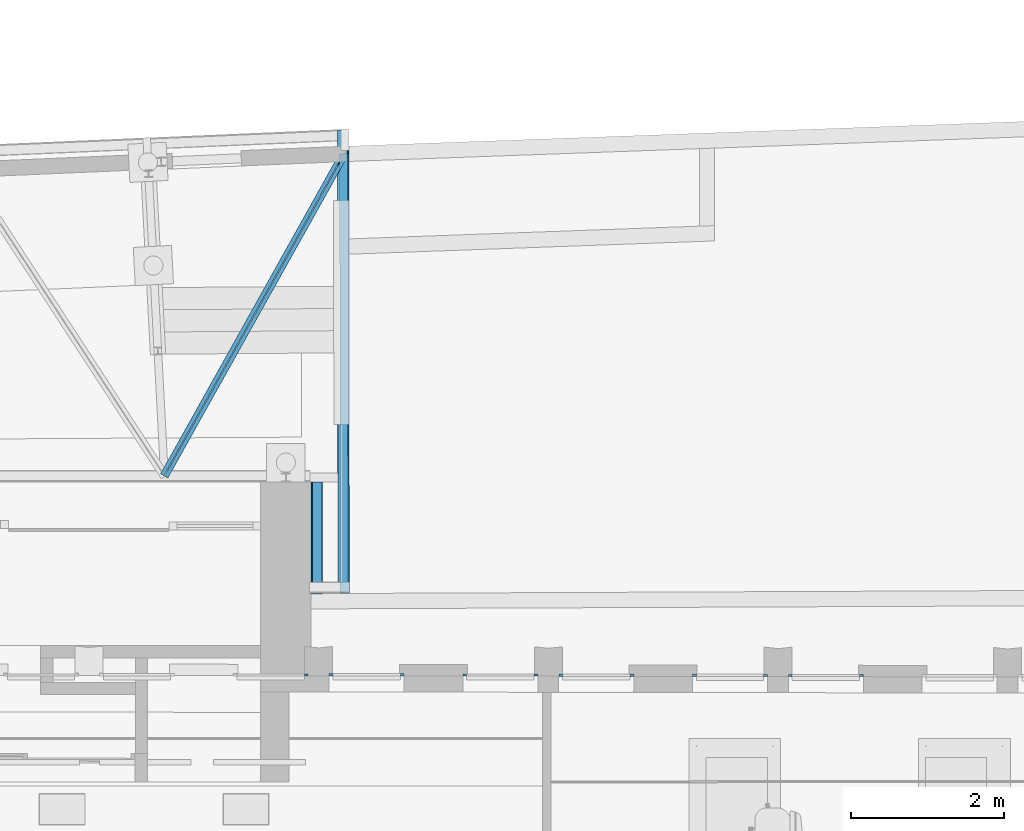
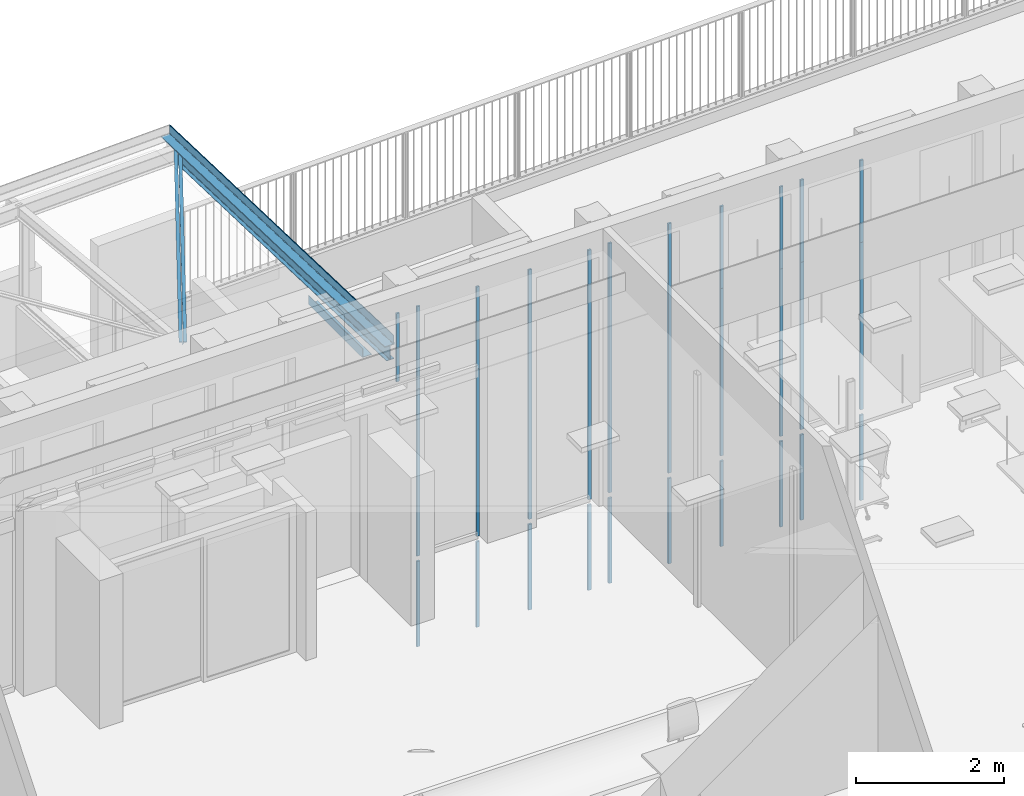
# One storey, part 11 of 128: 27 members, 4 beams, 11 elements without a shape of their own.
"""IFC2X3 building model written with IfcOpenShell, lengths in metres."""

from ifc_helpers import new_model, entity, si_unit, converted_unit, derived_unit, direction, frame, frame_2d, origin, origin_2d_with_axis, place, context, subcontext, project, spatial, polyline, circle_curve, parameter, trimmed, segment, composite_curve, rectangle, i_section, outline, extrude, source, transform, mapped, material, type_object, type_shapes, element, aggregate, save


model = new_model("IFC2X3")

# Units and contexts
model_context = context("Model", 3, precision=1e-05, world=origin(), true_north=direction((6.123031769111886e-17, 1.0)))
body_context = subcontext(model_context, "Body", "Model", "MODEL_VIEW")
ifc_project = project(units=[si_unit("LENGTHUNIT", "METRE"), si_unit("AREAUNIT", "SQUARE_METRE"), converted_unit("PLANEANGLEUNIT", "DEGREE", entity("IfcPlaneAngleMeasure", 0.017453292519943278), si_unit("PLANEANGLEUNIT", "RADIAN"), dimensions=[0, 0, 0, 0, 0, 0, 0]), derived_unit("THERMALTRANSMITTANCEUNIT", [(si_unit("MASSUNIT", "GRAM", prefix="KILO"), 1), (si_unit("THERMODYNAMICTEMPERATUREUNIT", "KELVIN"), -1), (si_unit("TIMEUNIT", "SECOND"), -3)])], contexts=[model_context])

# Site, building, storey
site_placement = place(None, origin())
site = spatial("IfcSite", under=ifc_project, at=site_placement, Name="Default", CompositionType="ELEMENT")
building_placement = place(site_placement, origin())
building = spatial("IfcBuilding", under=site, at=building_placement, CompositionType="ELEMENT")
storey_placement = place(building_placement, origin())
storey = spatial("IfcBuildingStorey", under=building, at=storey_placement, Name="00_RDC CAF", CompositionType="ELEMENT", Elevation=2.4982504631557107e-13)

# Curtain wall, member
curtain_wall_type_1 = type_object("IfcCurtainWallType", Name="Mur-rideau:FRi.Ext.30mm RDC", PredefinedType="NOTDEFINED")
curtain_wall_1_placement = place(storey_placement, origin())
curtain_wall_1 = element("IfcCurtainWall", 1, at=curtain_wall_1_placement, inside=storey, type_object=curtain_wall_type_1, Name="Mur-rideau:FRi.Ext.30mm RDC", ObjectType="Mur-rideau:FRi.Ext.30mm RDC")
ifc_material_1 = material(Name="ARC - M.Ex - Blanc")
member_type_1 = type_object("IfcMemberType", Name="Meneau rectangulaire:F.Ri.M_Ext_Rectangulaire_50x30mm", PredefinedType="MULLION", material=ifc_material_1)
shared_shape_1 = source(origin(), body_context, "Body", "SweptSolid", [
    extrude(rectangle(XDim=0.05, YDim=0.03, at=origin_2d_with_axis()), frame((-0.025, 0.0, -2.7689999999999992), z_axis=(0.0, 0.0, 1.0), x_axis=(-1.0, 0.0, 0.0)), (0.0, 0.0, 1.0), 2.7689999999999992),
])
type_shapes(member_type_1, [shared_shape_1])
member_1_placement = place(curtain_wall_1_placement, frame((31.865992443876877, 144.1440583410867, 0.0), z_axis=(0.0, 0.0, -1.0), x_axis=(1.0, 0.0, 0.0)))
member_1 = element("IfcMember", 2, at=member_1_placement, type_object=member_type_1, material=ifc_material_1, Name="Meneau rectangulaire:F.Ri.M_Ext_Rectangulaire_50x30mm", ObjectType="Meneau rectangulaire:F.Ri.M_Ext_Rectangulaire_50x30mm", context=body_context, shape_type="MappedRepresentation", body=[
    mapped(shared_shape_1, transform((0.0, 0.0, 0.0), scale=1.0)),
])

curtain_wall_2_placement = place(storey_placement, origin())
curtain_wall_2 = element("IfcCurtainWall", 3, at=curtain_wall_2_placement, inside=storey, type_object=curtain_wall_type_1, Name="Mur-rideau:FRi.Ext.30mm RDC", ObjectType="Mur-rideau:FRi.Ext.30mm RDC")
member_2_placement = place(curtain_wall_2_placement, frame((36.61235776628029, 144.13659375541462, 0.0), z_axis=(0.0, 0.0, -1.0), x_axis=(1.0, 0.0, 0.0)))
member_2 = element("IfcMember", 4, at=member_2_placement, type_object=member_type_1, material=ifc_material_1, Name="Meneau rectangulaire:F.Ri.M_Ext_Rectangulaire_50x30mm", ObjectType="Meneau rectangulaire:F.Ri.M_Ext_Rectangulaire_50x30mm", context=body_context, shape_type="MappedRepresentation", body=[
    mapped(shared_shape_1, transform((0.0, 0.0, 0.0), scale=1.0)),
])

curtain_wall_3_placement = place(storey_placement, origin())
curtain_wall_3 = element("IfcCurtainWall", 5, at=curtain_wall_3_placement, inside=storey, type_object=curtain_wall_type_1, Name="Mur-rideau:FRi.Ext.30mm RDC", ObjectType="Mur-rideau:FRi.Ext.30mm RDC")
member_3_placement = place(curtain_wall_3_placement, frame((37.865979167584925, 144.1346221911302, 0.0), z_axis=(0.0, 0.0, -1.0), x_axis=(1.0, 0.0, 0.0)))
member_3 = element("IfcMember", 6, at=member_3_placement, type_object=member_type_1, material=ifc_material_1, Name="Meneau rectangulaire:F.Ri.M_Ext_Rectangulaire_50x30mm", ObjectType="Meneau rectangulaire:F.Ri.M_Ext_Rectangulaire_50x30mm", context=body_context, shape_type="MappedRepresentation", body=[
    mapped(shared_shape_1, transform((0.0, 0.0, 0.0), scale=1.0)),
])

# Member
member_type_2 = type_object("IfcMemberType", Name="Meneau rectangulaire:F.Ri.M_Ext_Rectangulaire_50x30mm", PredefinedType="MULLION", material=ifc_material_1)
shared_shape_2 = source(origin(), body_context, "Body", "SweptSolid", [
    extrude(rectangle(XDim=0.05, YDim=0.03, at=origin_2d_with_axis()), frame((-0.025, 0.0, -1.3589999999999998), z_axis=(0.0, 0.0, 1.0), x_axis=(-1.0, 0.0, 0.0)), (0.0, 0.0, 1.0), 1.3589999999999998),
])
type_shapes(member_type_2, [shared_shape_2])
member_4_placement = place(curtain_wall_1_placement, frame((31.865992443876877, 144.1440583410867, 2.7689999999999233), z_axis=(0.0, 0.0, -1.0), x_axis=(1.0, 0.0, 0.0)))
member_4 = element("IfcMember", 7, at=member_4_placement, type_object=member_type_2, material=ifc_material_1, Name="Meneau rectangulaire:F.Ri.M_Ext_Rectangulaire_50x30mm", ObjectType="Meneau rectangulaire:F.Ri.M_Ext_Rectangulaire_50x30mm", context=body_context, shape_type="MappedRepresentation", body=[
    mapped(shared_shape_2, transform((0.0, 0.0, 0.0), scale=1.0)),
])

member_5_placement = place(curtain_wall_2_placement, frame((36.61235776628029, 144.13659375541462, 2.7689999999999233), z_axis=(0.0, 0.0, -1.0), x_axis=(1.0, 0.0, 0.0)))
member_5 = element("IfcMember", 8, at=member_5_placement, type_object=member_type_2, material=ifc_material_1, Name="Meneau rectangulaire:F.Ri.M_Ext_Rectangulaire_50x30mm", ObjectType="Meneau rectangulaire:F.Ri.M_Ext_Rectangulaire_50x30mm", context=body_context, shape_type="MappedRepresentation", body=[
    mapped(shared_shape_2, transform((0.0, 0.0, 0.0), scale=1.0)),
])

member_6_placement = place(curtain_wall_3_placement, frame((37.865979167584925, 144.1346221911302, 2.7689999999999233), z_axis=(0.0, 0.0, -1.0), x_axis=(1.0, 0.0, 0.0)))
member_6 = element("IfcMember", 9, at=member_6_placement, type_object=member_type_2, material=ifc_material_1, Name="Meneau rectangulaire:F.Ri.M_Ext_Rectangulaire_50x30mm", ObjectType="Meneau rectangulaire:F.Ri.M_Ext_Rectangulaire_50x30mm", context=body_context, shape_type="MappedRepresentation", body=[
    mapped(shared_shape_2, transform((0.0, 0.0, 0.0), scale=1.0)),
])

member_type_3 = type_object("IfcMemberType", Name="Meneau rectangulaire:F.Ri.M_Ext_Rectangulaire_50x30mm", PredefinedType="MULLION", material=ifc_material_1)
shared_shape_3 = source(origin(), body_context, "Body", "SweptSolid", [
    extrude(rectangle(XDim=0.05, YDim=0.03, at=origin_2d_with_axis()), frame((-0.025, 0.0, -1.3589999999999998), z_axis=(0.0, 0.0, 1.0), x_axis=(-1.0, 0.0, 0.0)), (0.0, 0.0, 1.0), 1.3589999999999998),
])
type_shapes(member_type_3, [shared_shape_3])
member_7_placement = place(curtain_wall_1_placement, frame((30.885993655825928, 144.1455995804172, 4.127999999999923), z_axis=(0.0, 0.0, 1.0), x_axis=(-1.0, 0.0, 0.0)))
member_7 = element("IfcMember", 10, at=member_7_placement, type_object=member_type_3, material=ifc_material_1, Name="Meneau rectangulaire:F.Ri.M_Ext_Rectangulaire_50x30mm", ObjectType="Meneau rectangulaire:F.Ri.M_Ext_Rectangulaire_50x30mm", context=body_context, shape_type="MappedRepresentation", body=[
    mapped(shared_shape_3, transform((0.0, 0.0, 0.0), scale=1.0)),
])

member_8_placement = place(curtain_wall_2_placement, frame((35.632358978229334, 144.13813499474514, 4.127999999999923), z_axis=(0.0, 0.0, 1.0), x_axis=(-1.0, 0.0, 0.0)))
member_8 = element("IfcMember", 11, at=member_8_placement, type_object=member_type_3, material=ifc_material_1, Name="Meneau rectangulaire:F.Ri.M_Ext_Rectangulaire_50x30mm", ObjectType="Meneau rectangulaire:F.Ri.M_Ext_Rectangulaire_50x30mm", context=body_context, shape_type="MappedRepresentation", body=[
    mapped(shared_shape_3, transform((0.0, 0.0, 0.0), scale=1.0)),
])

member_9_placement = place(curtain_wall_3_placement, frame((36.885980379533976, 144.13616343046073, 4.127999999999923), z_axis=(0.0, 0.0, 1.0), x_axis=(-1.0, 0.0, 0.0)))
member_9 = element("IfcMember", 12, at=member_9_placement, type_object=member_type_3, material=ifc_material_1, Name="Meneau rectangulaire:F.Ri.M_Ext_Rectangulaire_50x30mm", ObjectType="Meneau rectangulaire:F.Ri.M_Ext_Rectangulaire_50x30mm", context=body_context, shape_type="MappedRepresentation", body=[
    mapped(shared_shape_3, transform((0.0, 0.0, 0.0), scale=1.0)),
])

member_type_4 = type_object("IfcMemberType", Name="Meneau rectangulaire:F.Ri.M_Ext_Rectangulaire_50x30mm", PredefinedType="MULLION", material=ifc_material_1)
shared_shape_4 = source(origin(), body_context, "Body", "SweptSolid", [
    extrude(rectangle(XDim=0.05, YDim=0.03, at=origin_2d_with_axis()), frame((-0.025, 0.0, -2.7689999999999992), z_axis=(0.0, 0.0, 1.0), x_axis=(-1.0, 0.0, 0.0)), (0.0, 0.0, 1.0), 2.7689999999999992),
])
type_shapes(member_type_4, [shared_shape_4])
member_10_placement = place(curtain_wall_1_placement, frame((30.885993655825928, 144.1455995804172, 2.7689999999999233), z_axis=(0.0, 0.0, 1.0), x_axis=(-1.0, 0.0, 0.0)))
member_10 = element("IfcMember", 13, at=member_10_placement, type_object=member_type_4, material=ifc_material_1, Name="Meneau rectangulaire:F.Ri.M_Ext_Rectangulaire_50x30mm", ObjectType="Meneau rectangulaire:F.Ri.M_Ext_Rectangulaire_50x30mm", context=body_context, shape_type="MappedRepresentation", body=[
    mapped(shared_shape_4, transform((0.0, 0.0, 0.0), scale=1.0)),
])

aggregate(curtain_wall_1, [member_1, member_4, member_7, member_10])

member_11_placement = place(curtain_wall_2_placement, frame((35.632358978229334, 144.13813499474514, 2.7689999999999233), z_axis=(0.0, 0.0, 1.0), x_axis=(-1.0, 0.0, 0.0)))
member_11 = element("IfcMember", 14, at=member_11_placement, type_object=member_type_4, material=ifc_material_1, Name="Meneau rectangulaire:F.Ri.M_Ext_Rectangulaire_50x30mm", ObjectType="Meneau rectangulaire:F.Ri.M_Ext_Rectangulaire_50x30mm", context=body_context, shape_type="MappedRepresentation", body=[
    mapped(shared_shape_4, transform((0.0, 0.0, 0.0), scale=1.0)),
])

aggregate(curtain_wall_2, [member_2, member_5, member_8, member_11])

member_12_placement = place(curtain_wall_3_placement, frame((36.885980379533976, 144.13616343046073, 2.7689999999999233), z_axis=(0.0, 0.0, 1.0), x_axis=(-1.0, 0.0, 0.0)))
member_12 = element("IfcMember", 15, at=member_12_placement, type_object=member_type_4, material=ifc_material_1, Name="Meneau rectangulaire:F.Ri.M_Ext_Rectangulaire_50x30mm", ObjectType="Meneau rectangulaire:F.Ri.M_Ext_Rectangulaire_50x30mm", context=body_context, shape_type="MappedRepresentation", body=[
    mapped(shared_shape_4, transform((0.0, 0.0, 0.0), scale=1.0)),
])

aggregate(curtain_wall_3, [member_3, member_6, member_9, member_12])

# Curtain wall, member
curtain_wall_4_placement = place(storey_placement, origin())
curtain_wall_4 = element("IfcCurtainWall", 16, at=curtain_wall_4_placement, inside=storey, type_object=curtain_wall_type_1, Name="Mur-rideau:FRi.Ext.30mm RDC", ObjectType="Mur-rideau:FRi.Ext.30mm RDC")
member_type_5 = type_object("IfcMemberType", Name="Meneau rectangulaire:F.Ri.M_Ext_Rectangulaire_50x30mm", PredefinedType="MULLION", material=ifc_material_1)
shared_shape_5 = source(origin(), body_context, "Body", "SweptSolid", [
    extrude(rectangle(XDim=0.05, YDim=0.03, at=origin_2d_with_axis()), frame((-0.025, 0.0, -4.127999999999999), z_axis=(0.0, 0.0, 1.0), x_axis=(-1.0, 0.0, 0.0)), (0.0, 0.0, 1.0), 4.127999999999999),
])
type_shapes(member_type_5, [shared_shape_5])
member_13_placement = place(curtain_wall_4_placement, frame((33.612364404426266, 144.14131183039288, 0.0), z_axis=(0.0, 0.0, -1.0), x_axis=(1.0, 0.0, 0.0)))
member_13 = element("IfcMember", 17, at=member_13_placement, type_object=member_type_5, material=ifc_material_1, Name="Meneau rectangulaire:F.Ri.M_Ext_Rectangulaire_50x30mm", ObjectType="Meneau rectangulaire:F.Ri.M_Ext_Rectangulaire_50x30mm", context=body_context, shape_type="MappedRepresentation", body=[
    mapped(shared_shape_5, transform((0.0, 0.0, 0.0), scale=1.0)),
])

curtain_wall_5_placement = place(storey_placement, origin())
curtain_wall_5 = element("IfcCurtainWall", 18, at=curtain_wall_5_placement, inside=storey, type_object=curtain_wall_type_1, Name="Mur-rideau:FRi.Ext.30mm RDC", ObjectType="Mur-rideau:FRi.Ext.30mm RDC")
member_14_placement = place(curtain_wall_5_placement, frame((34.8659858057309, 144.13934026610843, 0.0), z_axis=(0.0, 0.0, -1.0), x_axis=(1.0, 0.0, 0.0)))
member_14 = element("IfcMember", 19, at=member_14_placement, type_object=member_type_5, material=ifc_material_1, Name="Meneau rectangulaire:F.Ri.M_Ext_Rectangulaire_50x30mm", ObjectType="Meneau rectangulaire:F.Ri.M_Ext_Rectangulaire_50x30mm", context=body_context, shape_type="MappedRepresentation", body=[
    mapped(shared_shape_5, transform((0.0, 0.0, 0.0), scale=1.0)),
])

# Member
member_type_6 = type_object("IfcMemberType", Name="Meneau rectangulaire:F.Ri.M_Ext_Rectangulaire_50x30mm", PredefinedType="MULLION", material=ifc_material_1)
shared_shape_6 = source(origin(), body_context, "Body", "SweptSolid", [
    extrude(rectangle(XDim=0.05, YDim=0.03, at=origin_2d_with_axis()), frame((-0.025, 0.0, -4.127999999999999), z_axis=(0.0, 0.0, 1.0), x_axis=(-1.0, 0.0, 0.0)), (0.0, 0.0, 1.0), 4.127999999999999),
])
type_shapes(member_type_6, [shared_shape_6])
member_15_placement = place(curtain_wall_4_placement, frame((32.63236561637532, 144.1428530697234, 4.127999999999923), z_axis=(0.0, 0.0, 1.0), x_axis=(-1.0, 0.0, 0.0)))
member_15 = element("IfcMember", 20, at=member_15_placement, type_object=member_type_6, material=ifc_material_1, Name="Meneau rectangulaire:F.Ri.M_Ext_Rectangulaire_50x30mm", ObjectType="Meneau rectangulaire:F.Ri.M_Ext_Rectangulaire_50x30mm", context=body_context, shape_type="MappedRepresentation", body=[
    mapped(shared_shape_6, transform((0.0, 0.0, 0.0), scale=1.0)),
])

aggregate(curtain_wall_4, [member_13, member_15])

member_16_placement = place(curtain_wall_5_placement, frame((33.88598701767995, 144.14088150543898, 4.127999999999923), z_axis=(0.0, 0.0, 1.0), x_axis=(-1.0, 0.0, 0.0)))
member_16 = element("IfcMember", 21, at=member_16_placement, type_object=member_type_6, material=ifc_material_1, Name="Meneau rectangulaire:F.Ri.M_Ext_Rectangulaire_50x30mm", ObjectType="Meneau rectangulaire:F.Ri.M_Ext_Rectangulaire_50x30mm", context=body_context, shape_type="MappedRepresentation", body=[
    mapped(shared_shape_6, transform((0.0, 0.0, 0.0), scale=1.0)),
])

aggregate(curtain_wall_5, [member_14, member_16])

# Curtain wall, member
curtain_wall_6_placement = place(storey_placement, origin())
curtain_wall_6 = element("IfcCurtainWall", 22, at=curtain_wall_6_placement, inside=storey, type_object=curtain_wall_type_1, Name="Mur-rideau:FRi.Ext.30mm RDC", ObjectType="Mur-rideau:FRi.Ext.30mm RDC")
member_type_7 = type_object("IfcMemberType", Name="Meneau rectangulaire:F.Ri.M_Ext_Rectangulaire_50x30mm", PredefinedType="MULLION", material=ifc_material_1)
shared_shape_7 = source(origin(), body_context, "Body", "SweptSolid", [
    extrude(rectangle(XDim=0.05, YDim=0.03, at=origin_2d_with_axis()), frame((-0.025, 0.0, -1.1279999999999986), z_axis=(0.0, 0.0, 1.0), x_axis=(-1.0, 0.0, 0.0)), (0.0, 0.0, 1.0), 1.1279999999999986),
])
type_shapes(member_type_7, [shared_shape_7])
member_17_placement = place(curtain_wall_6_placement, frame((30.612371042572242, 144.14131183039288, 3.0), z_axis=(0.0, 0.0, -1.0), x_axis=(1.0, 0.0, 0.0)))
member_17 = element("IfcMember", 23, at=member_17_placement, type_object=member_type_7, material=ifc_material_1, Name="Meneau rectangulaire:F.Ri.M_Ext_Rectangulaire_50x30mm", ObjectType="Meneau rectangulaire:F.Ri.M_Ext_Rectangulaire_50x30mm", context=body_context, shape_type="MappedRepresentation", body=[
    mapped(shared_shape_7, transform((0.0, 0.0, 0.0), scale=1.0)),
])
aggregate(curtain_wall_6, [member_17])

curtain_wall_type_2 = type_object("IfcCurtainWallType", Name="Mur-rideau:FRi.Ext.30mm Etages", PredefinedType="NOTDEFINED")
curtain_wall_7_placement = place(storey_placement, origin())
curtain_wall_7 = element("IfcCurtainWall", 24, at=curtain_wall_7_placement, inside=storey, type_object=curtain_wall_type_2, Name="Mur-rideau:FRi.Ext.30mm Etages", ObjectType="Mur-rideau:FRi.Ext.30mm Etages")
member_type_8 = type_object("IfcMemberType", Name="Meneau rectangulaire:F.Ri.M_Ext_Rectangulaire_50x30mm", PredefinedType="MULLION", material=ifc_material_1)
shared_shape_8 = source(origin(), body_context, "Body", "SweptSolid", [
    extrude(rectangle(XDim=0.05, YDim=0.03, at=origin_2d_with_axis()), frame((-0.025, 0.0, -1.4129999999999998), z_axis=(0.0, 0.0, 1.0), x_axis=(-1.0, 0.0, 0.0)), (0.0, 0.0, 1.0), 1.4129999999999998),
])
type_shapes(member_type_8, [shared_shape_8])
member_18_placement = place(curtain_wall_7_placement, frame((31.86599244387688, 144.14405834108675, -1.500000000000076), z_axis=(0.0, 0.0, -1.0), x_axis=(1.0, 0.0, 0.0)))
member_18 = element("IfcMember", 25, at=member_18_placement, type_object=member_type_8, material=ifc_material_1, Name="Meneau rectangulaire:F.Ri.M_Ext_Rectangulaire_50x30mm", ObjectType="Meneau rectangulaire:F.Ri.M_Ext_Rectangulaire_50x30mm", context=body_context, shape_type="MappedRepresentation", body=[
    mapped(shared_shape_8, transform((0.0, 0.0, 0.0), scale=1.0)),
])

curtain_wall_8_placement = place(storey_placement, origin())
curtain_wall_8 = element("IfcCurtainWall", 26, at=curtain_wall_8_placement, inside=storey, type_object=curtain_wall_type_2, Name="Mur-rideau:FRi.Ext.30mm Etages", ObjectType="Mur-rideau:FRi.Ext.30mm Etages")
member_19_placement = place(curtain_wall_8_placement, frame((34.8659858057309, 144.13934026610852, -1.500000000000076), z_axis=(0.0, 0.0, -1.0), x_axis=(1.0, 0.0, 0.0)))
member_19 = element("IfcMember", 27, at=member_19_placement, type_object=member_type_8, material=ifc_material_1, Name="Meneau rectangulaire:F.Ri.M_Ext_Rectangulaire_50x30mm", ObjectType="Meneau rectangulaire:F.Ri.M_Ext_Rectangulaire_50x30mm", context=body_context, shape_type="MappedRepresentation", body=[
    mapped(shared_shape_8, transform((0.0, 0.0, 0.0), scale=1.0)),
])

curtain_wall_9_placement = place(storey_placement, origin())
curtain_wall_9 = element("IfcCurtainWall", 28, at=curtain_wall_9_placement, inside=storey, type_object=curtain_wall_type_2, Name="Mur-rideau:FRi.Ext.30mm Etages", ObjectType="Mur-rideau:FRi.Ext.30mm Etages")
member_20_placement = place(curtain_wall_9_placement, frame((37.86597916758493, 144.13462219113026, -1.500000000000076), z_axis=(0.0, 0.0, -1.0), x_axis=(1.0, 0.0, 0.0)))
member_20 = element("IfcMember", 29, at=member_20_placement, type_object=member_type_8, material=ifc_material_1, Name="Meneau rectangulaire:F.Ri.M_Ext_Rectangulaire_50x30mm", ObjectType="Meneau rectangulaire:F.Ri.M_Ext_Rectangulaire_50x30mm", context=body_context, shape_type="MappedRepresentation", body=[
    mapped(shared_shape_8, transform((0.0, 0.0, 0.0), scale=1.0)),
])

# Member
member_type_9 = type_object("IfcMemberType", Name="Meneau rectangulaire:F.Ri.M_Ext_Rectangulaire_50x30mm", PredefinedType="MULLION", material=ifc_material_1)
shared_shape_9 = source(origin(), body_context, "Body", "SweptSolid", [
    extrude(rectangle(XDim=0.05, YDim=0.03, at=origin_2d_with_axis()), frame((-0.025, 0.0, -1.4129999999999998), z_axis=(0.0, 0.0, 1.0), x_axis=(-1.0, 0.0, 0.0)), (0.0, 0.0, 1.0), 1.4129999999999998),
])
type_shapes(member_type_9, [shared_shape_9])
member_21_placement = place(curtain_wall_7_placement, frame((30.88599365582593, 144.14559958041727, -0.087000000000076), z_axis=(0.0, 0.0, 1.0), x_axis=(-1.0, 0.0, 0.0)))
member_21 = element("IfcMember", 30, at=member_21_placement, type_object=member_type_9, material=ifc_material_1, Name="Meneau rectangulaire:F.Ri.M_Ext_Rectangulaire_50x30mm", ObjectType="Meneau rectangulaire:F.Ri.M_Ext_Rectangulaire_50x30mm", context=body_context, shape_type="MappedRepresentation", body=[
    mapped(shared_shape_9, transform((0.0, 0.0, 0.0), scale=1.0)),
])

aggregate(curtain_wall_7, [member_18, member_21])

member_22_placement = place(curtain_wall_8_placement, frame((33.88598701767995, 144.14088150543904, -0.087000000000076), z_axis=(0.0, 0.0, 1.0), x_axis=(-1.0, 0.0, 0.0)))
member_22 = element("IfcMember", 31, at=member_22_placement, type_object=member_type_9, material=ifc_material_1, Name="Meneau rectangulaire:F.Ri.M_Ext_Rectangulaire_50x30mm", ObjectType="Meneau rectangulaire:F.Ri.M_Ext_Rectangulaire_50x30mm", context=body_context, shape_type="MappedRepresentation", body=[
    mapped(shared_shape_9, transform((0.0, 0.0, 0.0), scale=1.0)),
])

aggregate(curtain_wall_8, [member_19, member_22])

member_23_placement = place(curtain_wall_9_placement, frame((36.88598037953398, 144.1361634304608, -0.087000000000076), z_axis=(0.0, 0.0, 1.0), x_axis=(-1.0, 0.0, 0.0)))
member_23 = element("IfcMember", 32, at=member_23_placement, type_object=member_type_9, material=ifc_material_1, Name="Meneau rectangulaire:F.Ri.M_Ext_Rectangulaire_50x30mm", ObjectType="Meneau rectangulaire:F.Ri.M_Ext_Rectangulaire_50x30mm", context=body_context, shape_type="MappedRepresentation", body=[
    mapped(shared_shape_9, transform((0.0, 0.0, 0.0), scale=1.0)),
])

aggregate(curtain_wall_9, [member_20, member_23])

# Curtain wall, member
curtain_wall_10_placement = place(storey_placement, origin())
curtain_wall_10 = element("IfcCurtainWall", 33, at=curtain_wall_10_placement, inside=storey, type_object=curtain_wall_type_2, Name="Mur-rideau:FRi.Ext.30mm Etages", ObjectType="Mur-rideau:FRi.Ext.30mm Etages")
member_type_10 = type_object("IfcMemberType", Name="Meneau rectangulaire:F.Ri.M_Ext_Rectangulaire_50x30mm", PredefinedType="MULLION", material=ifc_material_1)
shared_shape_10 = source(origin(), body_context, "Body", "SweptSolid", [
    extrude(rectangle(XDim=0.05, YDim=0.03, at=origin_2d_with_axis()), frame((-0.025, 0.0, -1.4129999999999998), z_axis=(0.0, 0.0, 1.0), x_axis=(-1.0, 0.0, 0.0)), (0.0, 0.0, 1.0), 1.4129999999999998),
])
type_shapes(member_type_10, [shared_shape_10])
member_24_placement = place(curtain_wall_10_placement, frame((32.632339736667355, 144.14285311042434, -1.500000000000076), z_axis=(0.0, 0.0, -1.0), x_axis=(-1.0, 0.0, 0.0)))
member_24 = element("IfcMember", 34, at=member_24_placement, type_object=member_type_10, material=ifc_material_1, Name="Meneau rectangulaire:F.Ri.M_Ext_Rectangulaire_50x30mm", ObjectType="Meneau rectangulaire:F.Ri.M_Ext_Rectangulaire_50x30mm", context=body_context, shape_type="MappedRepresentation", body=[
    mapped(shared_shape_10, transform((0.0, 0.0, 0.0), scale=1.0)),
])

curtain_wall_11_placement = place(storey_placement, origin())
curtain_wall_11 = element("IfcCurtainWall", 35, at=curtain_wall_11_placement, inside=storey, type_object=curtain_wall_type_2, Name="Mur-rideau:FRi.Ext.30mm Etages", ObjectType="Mur-rideau:FRi.Ext.30mm Etages")
member_25_placement = place(curtain_wall_11_placement, frame((35.63233309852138, 144.1381350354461, -1.500000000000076), z_axis=(0.0, 0.0, -1.0), x_axis=(-1.0, 0.0, 0.0)))
member_25 = element("IfcMember", 36, at=member_25_placement, type_object=member_type_10, material=ifc_material_1, Name="Meneau rectangulaire:F.Ri.M_Ext_Rectangulaire_50x30mm", ObjectType="Meneau rectangulaire:F.Ri.M_Ext_Rectangulaire_50x30mm", context=body_context, shape_type="MappedRepresentation", body=[
    mapped(shared_shape_10, transform((0.0, 0.0, 0.0), scale=1.0)),
])

# Member
member_type_11 = type_object("IfcMemberType", Name="Meneau rectangulaire:F.Ri.M_Ext_Rectangulaire_50x30mm", PredefinedType="MULLION", material=ifc_material_1)
shared_shape_11 = source(origin(), body_context, "Body", "SweptSolid", [
    extrude(rectangle(XDim=0.05, YDim=0.03, at=origin_2d_with_axis()), frame((-0.025, 0.0, -1.4129999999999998), z_axis=(0.0, 0.0, 1.0), x_axis=(-1.0, 0.0, 0.0)), (0.0, 0.0, 1.0), 1.4129999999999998),
])
type_shapes(member_type_11, [shared_shape_11])
member_26_placement = place(curtain_wall_10_placement, frame((33.612338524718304, 144.14131187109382, -0.087000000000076)))
member_26 = element("IfcMember", 37, at=member_26_placement, type_object=member_type_11, material=ifc_material_1, Name="Meneau rectangulaire:F.Ri.M_Ext_Rectangulaire_50x30mm", ObjectType="Meneau rectangulaire:F.Ri.M_Ext_Rectangulaire_50x30mm", context=body_context, shape_type="MappedRepresentation", body=[
    mapped(shared_shape_11, transform((0.0, 0.0, 0.0), scale=1.0)),
])

aggregate(curtain_wall_10, [member_24, member_26])

member_27_placement = place(curtain_wall_11_placement, frame((36.61233188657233, 144.1365937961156, -0.087000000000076)))
member_27 = element("IfcMember", 38, at=member_27_placement, type_object=member_type_11, material=ifc_material_1, Name="Meneau rectangulaire:F.Ri.M_Ext_Rectangulaire_50x30mm", ObjectType="Meneau rectangulaire:F.Ri.M_Ext_Rectangulaire_50x30mm", context=body_context, shape_type="MappedRepresentation", body=[
    mapped(shared_shape_11, transform((0.0, 0.0, 0.0), scale=1.0)),
])

aggregate(curtain_wall_11, [member_25, member_27])

# Beams
ifc_material_2 = material(Name="Acier structurel - S235")
beam_type_1 = type_object("IfcBeamType", Name="IPE:IPE240", PredefinedType="BEAM")
beam_1_placement = place(storey_placement, frame((31.08907859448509, 146.72290122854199, 2.7183732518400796), z_axis=(-4.373699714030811e-05, 0.03103185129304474, 0.9995183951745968), x_axis=(-0.0014087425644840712, 0.9995174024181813, -0.031031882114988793)))
element("IfcBeam", 39, at=beam_1_placement, inside=storey, type_object=beam_type_1, material=ifc_material_2, Name="IPE:IPE240", ObjectType="IPE:IPE240", context=body_context, shape_type="SweptSolid", body=[
    extrude(i_section(OverallWidth=0.11999999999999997, OverallDepth=0.24000000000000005, WebThickness=0.006200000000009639, FlangeThickness=0.009800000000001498, FilletRadius=0.014999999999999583, at=frame_2d((1.3530843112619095e-15, 4.333339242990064e-15), x_axis=(0.0, 1.0))), frame((-1.5086934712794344, 0.0, -0.120000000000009), z_axis=(1.0, 0.0, 0.0), x_axis=(0.0, 0.0, -1.0)), (0.0, 0.0, 1.0), 5.739242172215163),
])
beam_type_2 = type_object("IfcBeamType", Name="LL-Deux cornières:DCED50x5x10", PredefinedType="BEAM", material=ifc_material_2)
shared_shape_12 = source(origin(), body_context, "Body", "SweptSolid", [
    extrude(outline(composite_curve([segment(polyline([(-0.016428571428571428, -0.016428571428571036), (0.03357142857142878, -0.016428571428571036)]), True, "CONTINUOUS"), segment(trimmed(circle_curve(frame_2d((0.02857142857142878, -0.016428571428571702), x_axis=(1.0, 0.0)), 0.005), [parameter(1.6284439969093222e-12)], [parameter(90.00000000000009)], True, "PARAMETER"), True, "CONTINUOUS"), segment(polyline([(0.0285714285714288, -0.0114285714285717), (-0.0064285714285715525, -0.0114285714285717)]), True, "CONTINUOUS"), segment(trimmed(circle_curve(frame_2d((-0.006428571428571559, -0.006428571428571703), x_axis=(1.0, 0.0)), 0.005), [parameter(180.00000000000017)], [parameter(269.9999999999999)], True, "PARAMETER"), False, "CONTINUOUS"), segment(polyline([(-0.01142857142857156, -0.006428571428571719), (-0.01142857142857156, 0.02857142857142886)]), True, "CONTINUOUS"), segment(trimmed(circle_curve(frame_2d((-0.01642857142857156, 0.02857142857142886), x_axis=(1.0, 0.0)), 0.005), [parameter(0.0)], [parameter(89.99999999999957)], True, "PARAMETER"), True, "CONTINUOUS"), segment(polyline([(-0.01642857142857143, 0.033571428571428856), (-0.01642857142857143, -0.016428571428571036)]), True, "CONTINUOUS")], self_intersect=False)), frame((-2.4140000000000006, -0.021428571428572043, -0.0024285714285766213), z_axis=(1.0, 0.0, 0.0), x_axis=(0.0, -1.0, 0.0)), (0.0, 0.0, 1.0), 4.745),
    extrude(outline(composite_curve([segment(polyline([(-0.01642857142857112, -0.016428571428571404), (0.03357142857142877, -0.016428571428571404)]), True, "CONTINUOUS"), segment(trimmed(circle_curve(frame_2d((0.028571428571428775, -0.016428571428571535), x_axis=(0.0, 1.0)), 0.005), [parameter(270.00000000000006)], [parameter(359.9999999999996)], True, "PARAMETER"), True, "CONTINUOUS"), segment(polyline([(0.028571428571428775, -0.011428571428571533), (-0.0064285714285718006, -0.011428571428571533)]), True, "CONTINUOUS"), segment(trimmed(circle_curve(frame_2d((-0.006428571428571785, -0.006428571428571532), x_axis=(0.0, 1.0)), 0.005), [parameter(90.00000000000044)], [parameter(180.0000000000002)], True, "PARAMETER"), False, "CONTINUOUS"), segment(polyline([(-0.01142857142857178, -0.006428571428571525), (-0.01142857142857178, 0.02857142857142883)]), True, "CONTINUOUS"), segment(trimmed(circle_curve(frame_2d((-0.016428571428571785, 0.028571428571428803), x_axis=(0.0, 1.0)), 0.005), [parameter(269.9999999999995)], [parameter(359.99999999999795)], True, "PARAMETER"), True, "CONTINUOUS"), segment(polyline([(-0.01642857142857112, 0.0335714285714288), (-0.01642857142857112, -0.016428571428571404)]), True, "CONTINUOUS")], self_intersect=False)), frame((-2.4140000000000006, 0.021428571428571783, -0.0024285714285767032), z_axis=(1.0, 0.0, 0.0), x_axis=(0.0, 0.0, -1.0)), (0.0, 0.0, 1.0), 4.745),
])
type_shapes(beam_type_2, [shared_shape_12])
beam_2_placement = place(storey_placement, frame((29.909237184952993, 148.85018878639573, 2.6382228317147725), z_axis=(0.013193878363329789, 0.023617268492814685, 0.999634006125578), x_axis=(0.4875299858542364, 0.8726870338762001, -0.02705279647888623)))
element("IfcBeam", 40, at=beam_2_placement, inside=storey, type_object=beam_type_2, material=ifc_material_2, Name="LL-Deux cornières:DCED50x5x10", ObjectType="LL-Deux cornières:DCED50x5x10", context=body_context, shape_type="MappedRepresentation", body=[
    mapped(shared_shape_12, transform((0.0, 0.0, 0.0), scale=1.0)),
])
beam_type_3 = type_object("IfcBeamType", Name="Cornière à ailes égales:L150x10", PredefinedType="BEAM")
beam_3_placement = place(storey_placement, frame((31.102366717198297, 151.27220828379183, 2.7272029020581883), z_axis=(-4.373695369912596e-05, 0.031031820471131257, 0.9995183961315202), x_axis=(0.001408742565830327, -0.9995174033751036, 0.0310318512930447)))
element("IfcBeam", 41, at=beam_3_placement, inside=storey, type_object=beam_type_3, material=ifc_material_2, Name="Cornière à ailes égales:L150x10", ObjectType="Cornière à ailes égales:L150x10", context=body_context, shape_type="SweptSolid", body=[
    extrude(outline(composite_curve([segment(polyline([(0.05244444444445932, -0.09555555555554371), (0.05444444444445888, -0.09555555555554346)]), True, "CONTINUOUS"), segment(polyline([(0.05444444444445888, -0.09555555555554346), (0.0544444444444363, 0.05444444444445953)]), True, "CONTINUOUS"), segment(polyline([(0.05444444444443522, 0.05444444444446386), (-0.0955555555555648, 0.05444444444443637)]), True, "CONTINUOUS"), segment(polyline([(-0.0955555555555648, 0.05444444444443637), (-0.09555555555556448, 0.0524444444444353)]), True, "CONTINUOUS"), segment(trimmed(circle_curve(frame_2d((-0.08755555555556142, 0.05244444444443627), x_axis=(-1.0, 0.0)), 0.008000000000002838), [parameter(0.0)], [parameter(89.99999999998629)], True, "PARAMETER"), True, "CONTINUOUS"), segment(polyline([(-0.08755555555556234, 0.04444444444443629), (0.02844444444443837, 0.044444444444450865)]), True, "CONTINUOUS"), segment(trimmed(circle_curve(frame_2d((0.02844444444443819, 0.02844444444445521), x_axis=(0.0, 1.0)), 0.01600000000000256), [parameter(270.0000000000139)], [parameter(0.0)], True, "PARAMETER"), False, "CONTINUOUS"), segment(polyline([(0.044444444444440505, 0.02844444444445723), (0.04444444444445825, -0.08755555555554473)]), True, "CONTINUOUS"), segment(trimmed(circle_curve(frame_2d((0.05244444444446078, -0.0875555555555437), x_axis=(-1.0, 0.0)), 0.008000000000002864), [parameter(0.0)], [parameter(89.99999999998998)], True, "PARAMETER"), True, "CONTINUOUS")], self_intersect=False)), frame((0.003520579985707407, -0.014144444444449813, -0.09555555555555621), z_axis=(1.0, 0.0, 0.0), x_axis=(0.0, 0.0, -1.0)), (0.0, 0.0, 1.0), 6.062919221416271),
])
beam_4_placement = place(storey_placement, frame((30.69102502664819, 145.1055704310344, 2.8681714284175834), z_axis=(0.0, 0.0, 1.0), x_axis=(0.0, 1.0, 0.0)))
element("IfcBeam", 42, at=beam_4_placement, inside=storey, type_object=beam_type_3, material=ifc_material_2, Name="Cornière à ailes égales:L150x10", ObjectType="Cornière à ailes égales:L150x10", context=body_context, shape_type="SweptSolid", body=[
    extrude(outline(composite_curve([segment(polyline([(0.05244444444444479, -0.09555555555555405), (0.054444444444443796, -0.09555555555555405)]), True, "CONTINUOUS"), segment(polyline([(0.054444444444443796, -0.09555555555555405), (0.05444444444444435, 0.0544444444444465)]), True, "CONTINUOUS"), segment(polyline([(0.05444444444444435, 0.0544444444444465), (-0.09555555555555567, 0.0544444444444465)]), True, "CONTINUOUS"), segment(polyline([(-0.09555555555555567, 0.0544444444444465), (-0.09555555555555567, 0.05244444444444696)]), True, "CONTINUOUS"), segment(trimmed(circle_curve(frame_2d((-0.0875555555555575, 0.05244444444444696), x_axis=(-1.0, 0.0)), 0.007999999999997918), [parameter(0.0)], [parameter(90.00000000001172)], True, "PARAMETER"), True, "CONTINUOUS"), segment(polyline([(-0.08755555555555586, 0.044444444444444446), (0.02844444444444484, 0.044444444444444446)]), True, "CONTINUOUS"), segment(trimmed(circle_curve(frame_2d((0.0284444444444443, 0.028444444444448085), x_axis=(0.0, 1.0)), 0.016000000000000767), [parameter(270.0000000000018)], [parameter(0.0)], True, "PARAMETER"), False, "CONTINUOUS"), segment(polyline([(0.04444444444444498, 0.028444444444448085), (0.04444444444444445, -0.08755555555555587)]), True, "CONTINUOUS"), segment(trimmed(circle_curve(frame_2d((0.05244444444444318, -0.08755555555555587), x_axis=(-1.0, 0.0)), 0.007999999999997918), [parameter(0.0)], [parameter(90.00000000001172)], True, "PARAMETER"), True, "CONTINUOUS")], self_intersect=False)), frame((0.09759635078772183, -0.014144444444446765, -0.09555555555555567), z_axis=(1.0, 0.0, 0.0), x_axis=(0.0, 0.0, -1.0)), (0.0, 0.0, 1.0), 1.4627673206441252),
])

save(model, "model.ifc")
